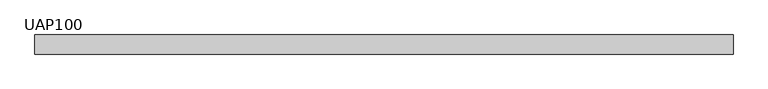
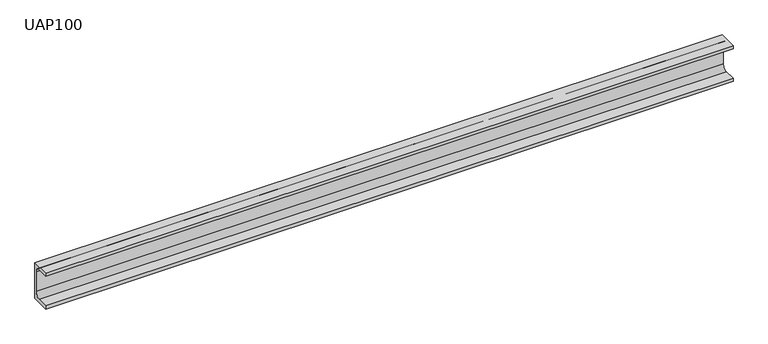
"""IFC4 building model written with IfcOpenShell, lengths in millimetres: beam geometry, U-Fers a ailes parallèles : UAP100."""

from ifc_helpers import new_model, si_unit, point, frame, frame_2d, origin, place, context, project, spatial, polyline, circle_curve, trimmed, segment, composite_curve, outline, extrude, source, transform, mapped, element, save


def uap100_fe905769(model_context):
    return source(origin(), model_context, "Body", "SweptSolid", [
        extrude(outline(composite_curve([segment(polyline([(17.0, 50.0), (17.0, -50.0), (-33.0, -50.0), (-33.0, -41.5), (-2.5, -41.5)]), True, "CONTINUOUS"), segment(trimmed(circle_curve(frame_2d((-2.5, -27.5)), 14.0), [point((-2.5, -41.5))], [point((11.5, -27.5))], True, "CARTESIAN"), True, "CONTINUOUS"), segment(polyline([(11.5, -27.5), (11.5, 27.5)]), True, "CONTINUOUS"), segment(trimmed(circle_curve(frame_2d((-2.5, 27.5)), 14.0), [point((11.5, 27.5))], [point((-2.5, 41.5))], True, "CARTESIAN"), True, "CONTINUOUS"), segment(polyline([(-2.5, 41.5), (-33.0, 41.5), (-33.0, 50.0), (17.0, 50.0)]), True, "CONTINUOUS")], self_intersect=False)), frame((-941.6047563, 0.0, 0.0), z_axis=(1.0, 0.0, 0.0), x_axis=(0.0, 1.0, 0.0)), (0.0, 0.0, 1.0), 1821.6047563),
    ])


if __name__ == "__main__":
    model = new_model("IFC4")
    model_context = context("Model", 3, world=origin())
    ifc_project = project(units=[si_unit("LENGTHUNIT", "METRE", prefix="MILLI")], contexts=[model_context])
    site = spatial("IfcSite", under=ifc_project)
    building = spatial("IfcBuilding", under=site)
    placement = place(None, origin())
    uap100_shape = uap100_fe905769(model_context)
    element("IfcBeam", 1, ObjectType="U-Fers a ailes parallèles : UAP100", at=placement, inside=building, context=model_context, shape_type="MappedRepresentation", body=[
        mapped(uap100_shape, transform((0.0, 0.0, 0.0), x_axis=(1.0, 0.0, 0.0), y_axis=(0.0, 1.0, 0.0), z_axis=(0.0, 0.0, 1.0))),
    ])
    save(model, "model.ifc")
